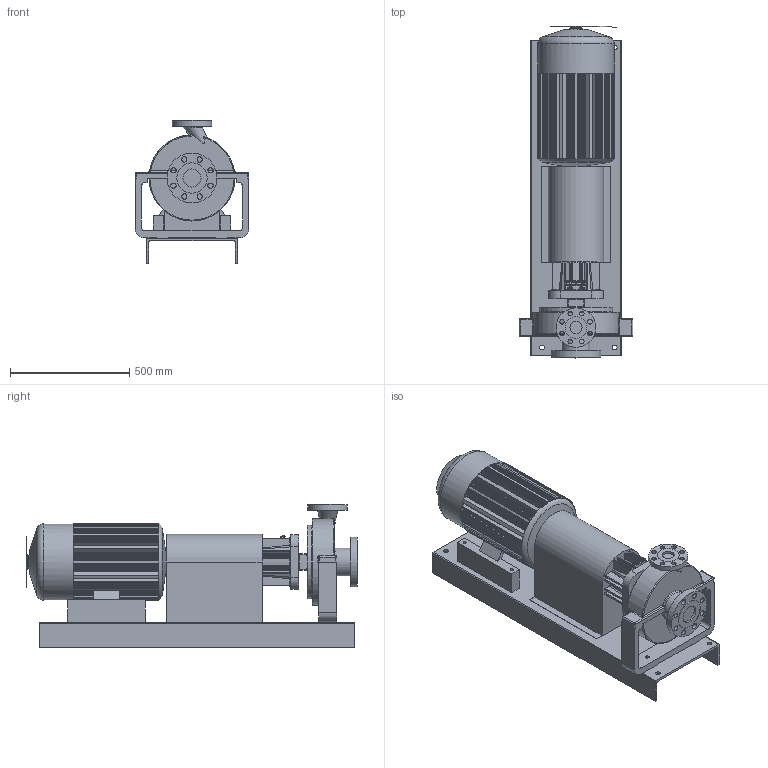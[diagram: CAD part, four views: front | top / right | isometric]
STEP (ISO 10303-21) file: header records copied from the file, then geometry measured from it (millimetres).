
FILE_DESCRIPTION(/* description */ ('Unknown'),/* implementation_level */ '2;1');
FILE_NAME(/* name */ 'CTP 2x3x10 286TS',/* time_stamp */ '2016-02-18T11:46:26+01:00',/* author */ ('Unknown'),/* organization */ ('Unknown'),/* preprocessor_version */ 'ST-DEVELOPER v16',/* originating_system */ 'DEX',/* authorisation */ $);
FILE_SCHEMA (('AUTOMOTIVE_DESIGN {1 0 10303 214 3 1 1}'));
Products named in the file (1): Maatschets3D CTP
Bounding box: 476.25 x 1391.65 x 599.95 mm (x, y, z)
Volume: 84740149.5 mm3; surface area: 5600468.2 mm2
Topology: 1 solids, 1 shells, 1635 faces, 4168 edges, 2491 vertices
Faces by surface type: plane 1142, cylinder 299, bspline 139, sphere 31, torus 22, cone 2
Full cylindrical faces by diameter (mm): 13.462 x4, 16 x2, 19.05 x8, 20 x4, 22.225 x8, 50.8 x1, 51.275 x1, 76.2 x1, 92.075 x1, 117 x1, 127 x1, 165.1 x1, 209.55 x1, 235 x1, 280 x1, 309 x1, 320.04 x1, 361 x1
Entity records: 66365 total; most frequent: CARTESIAN_POINT 16369, ORIENTED_EDGE 8060, DIRECTION 7971, EDGE_CURVE 4030, AXIS2_PLACEMENT_3D 2706, LINE 2559, VECTOR 2559, VERTEX_POINT 2461
